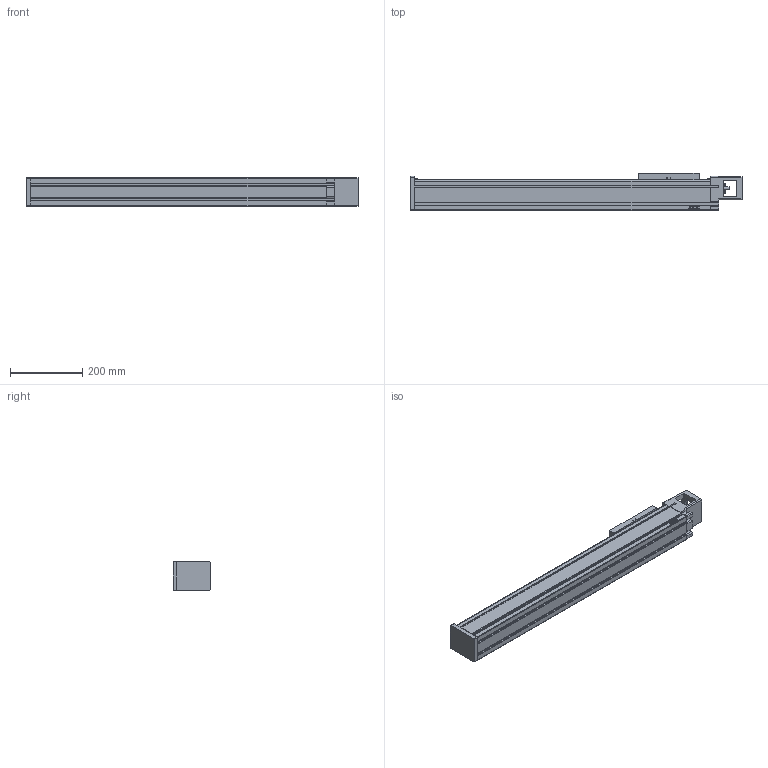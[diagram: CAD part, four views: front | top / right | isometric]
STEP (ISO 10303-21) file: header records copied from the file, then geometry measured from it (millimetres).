
FILE_DESCRIPTION(/* description */ (''),/* implementation_level */ '2;1');
FILE_NAME(/* name */ 'D:\混合母檔20191031\混和母檔\混和母檔\bin\Debug\Download\3D\KU80-20C-600AF0\KU80-20C-600AF0.stp',/* time_stamp */ '2019-11-04T17:24:21+08:00',/* author */ ('user'),/* organization */ (''),/* preprocessor_version */ 'ST-DEVELOPER v16.13',/* originating_system */ 'Autodesk Inventor 2018',/* authorisation */ '');
FILE_SCHEMA (('AUTOMOTIVE_DESIGN { 1 0 10303 214 3 1 1 }'));
Length unit declared in the file: millimetre
Products named in the file (3): KU80-20C-600AF0; KU80-F0-BP; KU80-SL
Assembly tree (2 placements, depth 2):
  KU80-20C-600AF0
    KU80-F0-BP
    KU80-SL
Bounding box: 920 x 103 x 80 mm (x, y, z)
Volume: 5791080.3 mm3; surface area: 502880.1 mm2
Topology: 2 solids, 10 shells, 862 faces, 2315 edges, 1508 vertices
Faces by surface type: plane 509, bspline 136, cylinder 104, cone 81, torus 28, sphere 4
Full cylindrical faces by diameter (mm): 2.459 x4, 2.729 x4, 3 x4, 3.242 x4, 3.5 x4, 4.134 x16, 5 x4, 5.5 x8, 5.6 x2, 8 x1, 8.5 x4, 12 x1, 46.5 x1
Entity records: 27990 total; most frequent: CARTESIAN_POINT 7413, ORIENTED_EDGE 4362, DIRECTION 3790, EDGE_CURVE 2181, VERTEX_POINT 1469, LINE 1298, VECTOR 1298, AXIS2_PLACEMENT_3D 1246
